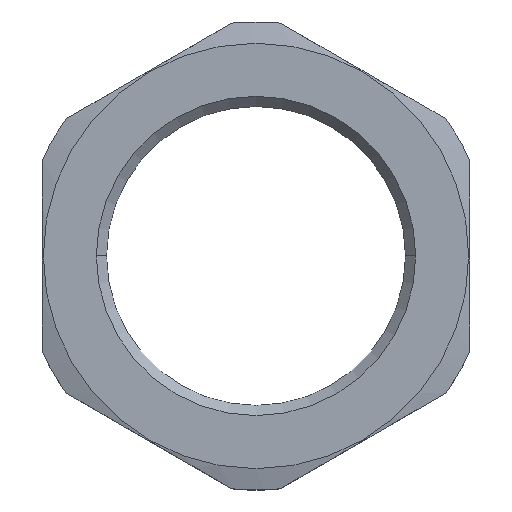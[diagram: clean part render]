
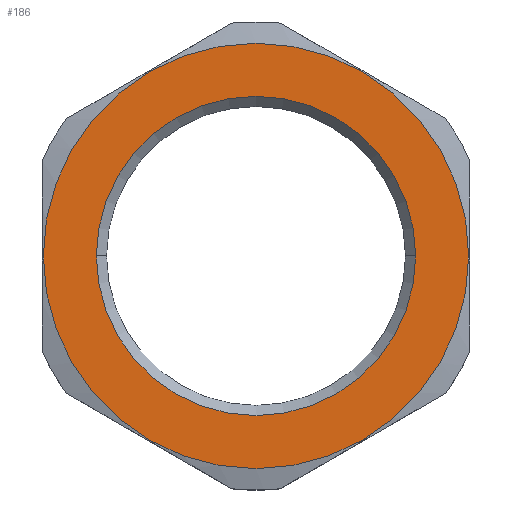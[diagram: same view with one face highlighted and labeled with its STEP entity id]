
A CAD part, top view. The second image highlights one B-rep face of the part: STEP entity #186.
In plain terms, the highlighted planar face has unit normal (0, 0, 1).
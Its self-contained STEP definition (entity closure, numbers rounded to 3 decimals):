
#136 = EDGE_CURVE ( 'NONE', #547, #137, #829, .T. ) ;
#137 = VERTEX_POINT ( 'NONE', #824 ) ;
#186 = ADVANCED_FACE ( 'NONE', ( #965, #964 ), #1024, .F. ) ;
#187 = EDGE_LOOP ( 'NONE', ( #188, #242 ) ) ;
#188 = ORIENTED_EDGE ( 'NONE', *, *, #241, .T. ) ;
#241 = EDGE_CURVE ( 'NONE', #508, #507, #1142, .T. ) ;
#242 = ORIENTED_EDGE ( 'NONE', *, *, #506, .T. ) ;
#243 = EDGE_LOOP ( 'NONE', ( #244, #246 ) ) ;
#244 = ORIENTED_EDGE ( 'NONE', *, *, #245, .F. ) ;
#245 = EDGE_CURVE ( 'NONE', #137, #547, #1086, .T. ) ;
#246 = ORIENTED_EDGE ( 'NONE', *, *, #136, .F. ) ;
#506 = EDGE_CURVE ( 'NONE', #507, #508, #1577, .T. ) ;
#507 = VERTEX_POINT ( 'NONE', #1572 ) ;
#508 = VERTEX_POINT ( 'NONE', #1571 ) ;
#547 = VERTEX_POINT ( 'NONE', #1476 ) ;
#824 = CARTESIAN_POINT ( 'NONE',  ( 15.686, 0., 0. ) ) ;
#825 = DIRECTION ( 'NONE',  ( 1., 0., 0. ) ) ;
#826 = DIRECTION ( 'NONE',  ( 0., 0., 1. ) ) ;
#827 = CARTESIAN_POINT ( 'NONE',  ( 0., 0., 0. ) ) ;
#828 = AXIS2_PLACEMENT_3D ( 'NONE', #827, #826, #825 ) ;
#829 = CIRCLE ( 'NONE', #828, 15.686 ) ;
#964 = FACE_BOUND ( 'NONE', #243, .T. ) ;
#965 = FACE_OUTER_BOUND ( 'NONE', #187, .T. ) ;
#1020 = DIRECTION ( 'NONE',  ( -1., 0., 0. ) ) ;
#1021 = DIRECTION ( 'NONE',  ( 0., 0., -1. ) ) ;
#1022 = CARTESIAN_POINT ( 'NONE',  ( 0., 0., 0. ) ) ;
#1023 = AXIS2_PLACEMENT_3D ( 'NONE', #1022, #1021, #1020 ) ;
#1024 = PLANE ( 'NONE',  #1023 ) ;
#1083 = DIRECTION ( 'NONE',  ( 1., 0., 0. ) ) ;
#1084 = DIRECTION ( 'NONE',  ( 0., 0., 1. ) ) ;
#1085 = AXIS2_PLACEMENT_3D ( 'NONE', #1143, #1084, #1083 ) ;
#1086 = CIRCLE ( 'NONE', #1085, 15.686 ) ;
#1138 = DIRECTION ( 'NONE',  ( 1., 0., 0. ) ) ;
#1139 = DIRECTION ( 'NONE',  ( 0., 0., 1. ) ) ;
#1140 = CARTESIAN_POINT ( 'NONE',  ( 0., 0., 0. ) ) ;
#1141 = AXIS2_PLACEMENT_3D ( 'NONE', #1140, #1139, #1138 ) ;
#1142 = CIRCLE ( 'NONE', #1141, 20.9 ) ;
#1143 = CARTESIAN_POINT ( 'NONE',  ( 0., 0., 0. ) ) ;
#1476 = CARTESIAN_POINT ( 'NONE',  ( -15.686, 0., 0. ) ) ;
#1571 = CARTESIAN_POINT ( 'NONE',  ( -20.9, 0., 0. ) ) ;
#1572 = CARTESIAN_POINT ( 'NONE',  ( 20.9, 0., 0. ) ) ;
#1573 = DIRECTION ( 'NONE',  ( 1., 0., 0. ) ) ;
#1574 = DIRECTION ( 'NONE',  ( 0., 0., 1. ) ) ;
#1575 = CARTESIAN_POINT ( 'NONE',  ( 0., 0., 0. ) ) ;
#1576 = AXIS2_PLACEMENT_3D ( 'NONE', #1575, #1574, #1573 ) ;
#1577 = CIRCLE ( 'NONE', #1576, 20.9 ) ;
